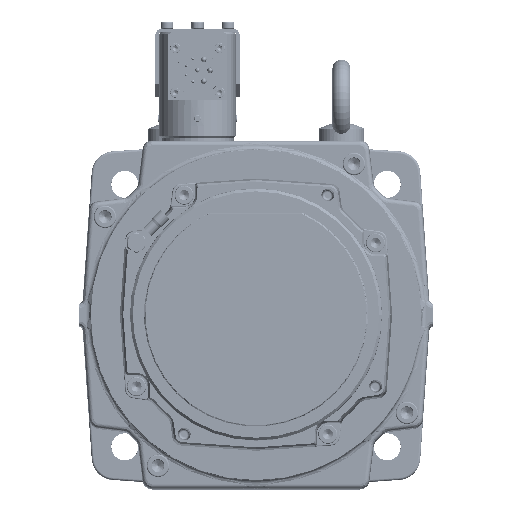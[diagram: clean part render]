
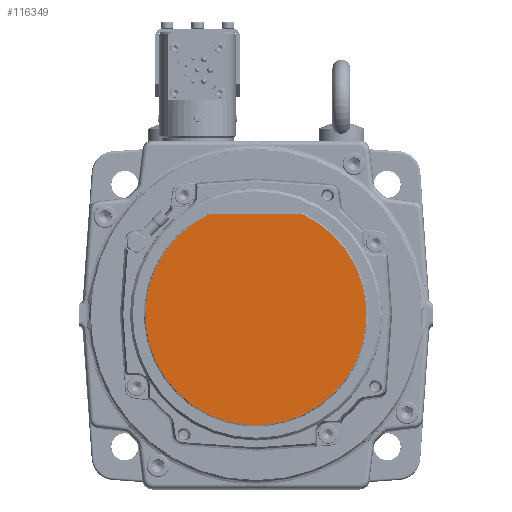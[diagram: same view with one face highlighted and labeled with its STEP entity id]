
A CAD part, top view. The second image highlights one B-rep face of the part: STEP entity #116349.
In plain terms, the highlighted planar face has unit normal (0, 0, 1).
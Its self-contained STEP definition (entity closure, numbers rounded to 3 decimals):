
#107850=CARTESIAN_POINT('',(0.,0.,63.9));
#107851=DIRECTION('',(0.,0.,-1.));
#107852=DIRECTION('',(0.418,0.908,0.));
#107853=AXIS2_PLACEMENT_3D('',#107850,#107851,#107852);
#107862=DIRECTION('',(-1.,0.,0.));
#107863=VECTOR('',#107862,41.125);
#107864=CARTESIAN_POINT('',(20.562,44.7,63.9));
#107865=LINE('',#107864,#107863);
#108540=CARTESIAN_POINT('',(20.562,44.7,63.9));
#108541=CARTESIAN_POINT('',(-20.562,44.7,63.9));
#108542=VERTEX_POINT('',#108540);
#108543=VERTEX_POINT('',#108541);
#116340=CARTESIAN_POINT('',(0.,0.,63.9));
#116341=DIRECTION('',(0.,0.,1.));
#116342=DIRECTION('',(1.,0.,0.));
#116343=AXIS2_PLACEMENT_3D('',#116340,#116341,#116342);
#116344=PLANE('',#116343);
#116345=ORIENTED_EDGE('',*,*,#116319,.T.);
#116346=ORIENTED_EDGE('',*,*,#116331,.F.);
#116347=EDGE_LOOP('',(#116345,#116346));
#116348=FACE_OUTER_BOUND('',#116347,.F.);
#116349=ADVANCED_FACE('',(#116348),#116344,.T.);
#107854=CIRCLE('',#107853,49.203);
#116319=EDGE_CURVE('',#108542,#108543,#107854,.T.);
#116331=EDGE_CURVE('',#108542,#108543,#107865,.T.);
